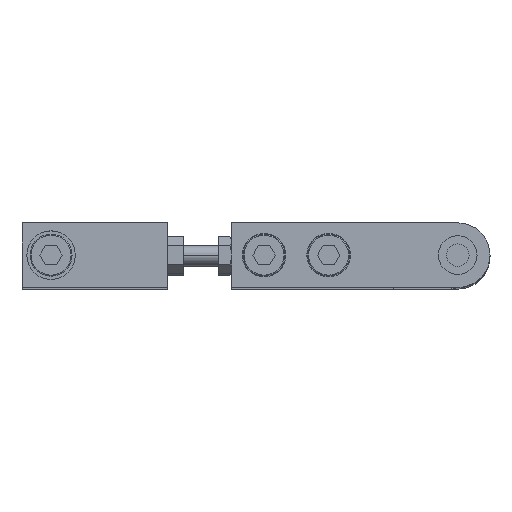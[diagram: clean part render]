
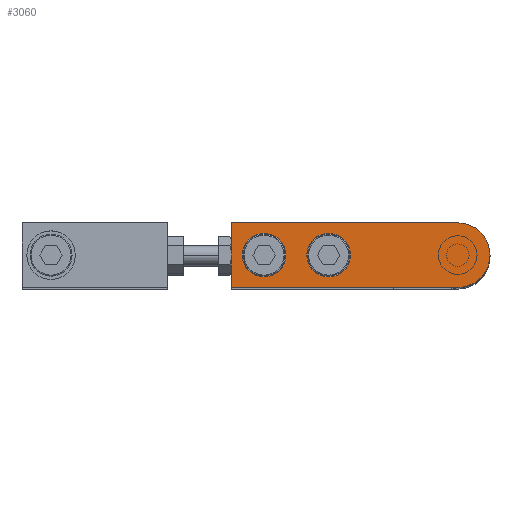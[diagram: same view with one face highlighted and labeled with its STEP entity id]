
A CAD part, top view. The second image highlights one B-rep face of the part: STEP entity #3060.
In plain terms, the highlighted planar face has unit normal (0, 0, 1) as drawn and (0, 0, -1) by its records, which use the part's own axes.
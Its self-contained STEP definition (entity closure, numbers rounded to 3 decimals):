
#75 = ORIENTED_EDGE ( 'NONE', *, *, #2232, .F. ) ;
#79 = EDGE_LOOP ( 'NONE', ( #1411, #6130 ) ) ;
#112 = AXIS2_PLACEMENT_3D ( 'NONE', #2845, #4046, #4112 ) ;
#142 = CIRCLE ( 'NONE', #112, 6.75 ) ;
#207 = CARTESIAN_POINT ( 'NONE',  ( 70., 10., -5. ) ) ;
#286 = AXIS2_PLACEMENT_3D ( 'NONE', #6437, #5243, #5775 ) ;
#486 = AXIS2_PLACEMENT_3D ( 'NONE', #2773, #2203, #6338 ) ;
#503 = LINE ( 'NONE', #1333, #6560 ) ;
#605 = ORIENTED_EDGE ( 'NONE', *, *, #1374, .F. ) ;
#712 = VECTOR ( 'NONE', #5575, 1000. ) ;
#716 = ORIENTED_EDGE ( 'NONE', *, *, #3052, .F. ) ;
#982 = CIRCLE ( 'NONE', #4690, 6.75 ) ;
#1010 = VERTEX_POINT ( 'NONE', #1584 ) ;
#1019 = DIRECTION ( 'NONE',  ( 0., 0., -1. ) ) ;
#1053 = VECTOR ( 'NONE', #1330, 1000. ) ;
#1105 = EDGE_CURVE ( 'NONE', #1010, #1317, #142, .T. ) ;
#1317 = VERTEX_POINT ( 'NONE', #6713 ) ;
#1330 = DIRECTION ( 'NONE',  ( -1., 0., 0. ) ) ;
#1333 = CARTESIAN_POINT ( 'NONE',  ( 70., 10., -5. ) ) ;
#1374 = EDGE_CURVE ( 'NONE', #6424, #1773, #503, .T. ) ;
#1411 = ORIENTED_EDGE ( 'NONE', *, *, #7436, .F. ) ;
#1584 = CARTESIAN_POINT ( 'NONE',  ( 33.25, 0., -5. ) ) ;
#1773 = VERTEX_POINT ( 'NONE', #207 ) ;
#1954 = CARTESIAN_POINT ( 'NONE',  ( 60., 0., -5. ) ) ;
#1990 = DIRECTION ( 'NONE',  ( 0., 0., 1. ) ) ;
#2004 = DIRECTION ( 'NONE',  ( -1., 0., 0. ) ) ;
#2047 = DIRECTION ( 'NONE',  ( -1., 0., 0. ) ) ;
#2203 = DIRECTION ( 'NONE',  ( 0., 0., 1. ) ) ;
#2210 = DIRECTION ( 'NONE',  ( -1., 0., 0. ) ) ;
#2232 = EDGE_CURVE ( 'NONE', #1773, #6300, #2881, .T. ) ;
#2368 = CIRCLE ( 'NONE', #6187, 10. ) ;
#2442 = LINE ( 'NONE', #4941, #712 ) ;
#2574 = DIRECTION ( 'NONE',  ( 0., 1., 0. ) ) ;
#2590 = CIRCLE ( 'NONE', #6548, 6.75 ) ;
#2644 = CARTESIAN_POINT ( 'NONE',  ( 60., 0., -5. ) ) ;
#2652 = FACE_BOUND ( 'NONE', #79, .T. ) ;
#2773 = CARTESIAN_POINT ( 'NONE',  ( 0., 0., -5. ) ) ;
#2845 = CARTESIAN_POINT ( 'NONE',  ( 40., 0., -5. ) ) ;
#2881 = LINE ( 'NONE', #4279, #1053 ) ;
#3052 = EDGE_CURVE ( 'NONE', #1317, #1010, #4680, .T. ) ;
#3060 = ADVANCED_FACE ( 'NONE', ( #2652, #4409, #7227 ), #5064, .F. ) ;
#3091 = EDGE_LOOP ( 'NONE', ( #6271, #716 ) ) ;
#3381 = CARTESIAN_POINT ( 'NONE',  ( 40., 0., -5. ) ) ;
#3670 = ORIENTED_EDGE ( 'NONE', *, *, #7433, .F. ) ;
#3709 = EDGE_CURVE ( 'NONE', #6300, #4685, #2368, .T. ) ;
#3852 = CARTESIAN_POINT ( 'NONE',  ( -10., 0., -5. ) ) ;
#3942 = CIRCLE ( 'NONE', #486, 10. ) ;
#4046 = DIRECTION ( 'NONE',  ( 0., 0., -1. ) ) ;
#4099 = VERTEX_POINT ( 'NONE', #6245 ) ;
#4112 = DIRECTION ( 'NONE',  ( -1., 0., 0. ) ) ;
#4203 = EDGE_LOOP ( 'NONE', ( #6765, #75, #605, #3670, #6457 ) ) ;
#4267 = EDGE_CURVE ( 'NONE', #4685, #6635, #3942, .T. ) ;
#4279 = CARTESIAN_POINT ( 'NONE',  ( 0., 10., -5. ) ) ;
#4409 = FACE_BOUND ( 'NONE', #3091, .T. ) ;
#4567 = EDGE_CURVE ( 'NONE', #4099, #4898, #982, .T. ) ;
#4680 = CIRCLE ( 'NONE', #7531, 6.75 ) ;
#4685 = VERTEX_POINT ( 'NONE', #3852 ) ;
#4690 = AXIS2_PLACEMENT_3D ( 'NONE', #1954, #4987, #2047 ) ;
#4898 = VERTEX_POINT ( 'NONE', #4984 ) ;
#4941 = CARTESIAN_POINT ( 'NONE',  ( 0., -10., -5. ) ) ;
#4984 = CARTESIAN_POINT ( 'NONE',  ( 53.25, 0., -5. ) ) ;
#4987 = DIRECTION ( 'NONE',  ( 0., 0., -1. ) ) ;
#5064 = PLANE ( 'NONE',  #286 ) ;
#5243 = DIRECTION ( 'NONE',  ( 0., 0., 1. ) ) ;
#5295 = CARTESIAN_POINT ( 'NONE',  ( 0., 10., -5. ) ) ;
#5513 = DIRECTION ( 'NONE',  ( 0., 0., -1. ) ) ;
#5575 = DIRECTION ( 'NONE',  ( 1., 0., 0. ) ) ;
#5775 = DIRECTION ( 'NONE',  ( 1., 0., 0. ) ) ;
#6011 = CARTESIAN_POINT ( 'NONE',  ( 0., -10., -5. ) ) ;
#6130 = ORIENTED_EDGE ( 'NONE', *, *, #4567, .F. ) ;
#6187 = AXIS2_PLACEMENT_3D ( 'NONE', #7329, #1990, #6679 ) ;
#6245 = CARTESIAN_POINT ( 'NONE',  ( 66.75, 0., -5. ) ) ;
#6271 = ORIENTED_EDGE ( 'NONE', *, *, #1105, .F. ) ;
#6300 = VERTEX_POINT ( 'NONE', #5295 ) ;
#6338 = DIRECTION ( 'NONE',  ( 1., 0., 0. ) ) ;
#6424 = VERTEX_POINT ( 'NONE', #6426 ) ;
#6426 = CARTESIAN_POINT ( 'NONE',  ( 70., -10., -5. ) ) ;
#6437 = CARTESIAN_POINT ( 'NONE',  ( 0., 0., -5. ) ) ;
#6457 = ORIENTED_EDGE ( 'NONE', *, *, #4267, .F. ) ;
#6548 = AXIS2_PLACEMENT_3D ( 'NONE', #2644, #5513, #2004 ) ;
#6560 = VECTOR ( 'NONE', #2574, 1000. ) ;
#6635 = VERTEX_POINT ( 'NONE', #6011 ) ;
#6679 = DIRECTION ( 'NONE',  ( 1., 0., 0. ) ) ;
#6713 = CARTESIAN_POINT ( 'NONE',  ( 46.75, 0., -5. ) ) ;
#6765 = ORIENTED_EDGE ( 'NONE', *, *, #3709, .F. ) ;
#7227 = FACE_OUTER_BOUND ( 'NONE', #4203, .T. ) ;
#7329 = CARTESIAN_POINT ( 'NONE',  ( 0., 0., -5. ) ) ;
#7433 = EDGE_CURVE ( 'NONE', #6635, #6424, #2442, .T. ) ;
#7436 = EDGE_CURVE ( 'NONE', #4898, #4099, #2590, .T. ) ;
#7531 = AXIS2_PLACEMENT_3D ( 'NONE', #3381, #1019, #2210 ) ;
